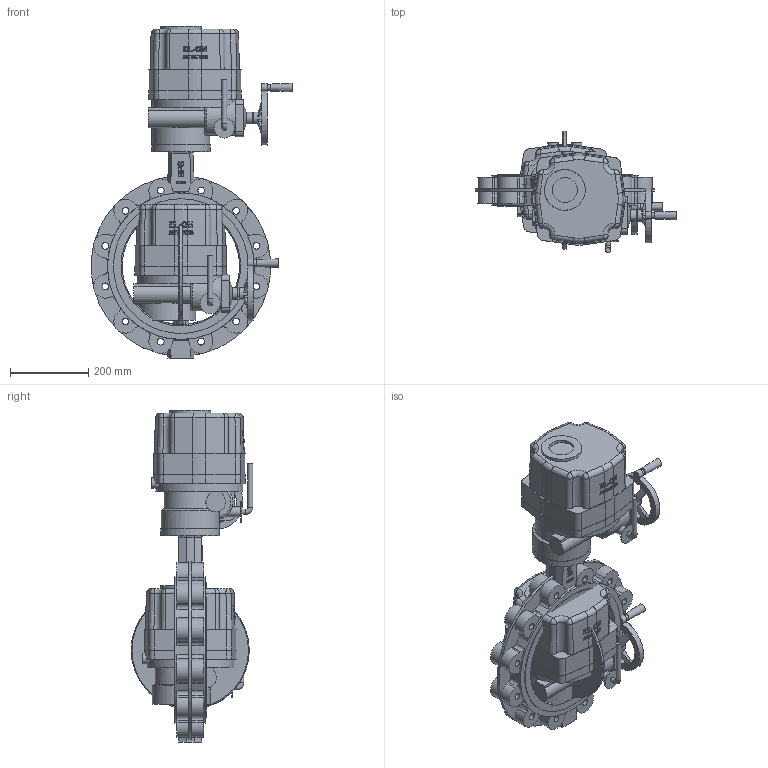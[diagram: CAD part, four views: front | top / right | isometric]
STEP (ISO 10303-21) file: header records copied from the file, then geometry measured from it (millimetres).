
FILE_DESCRIPTION( ( 'Unknown' ), '1' );
FILE_NAME( 'R:/ECCUA/ROOTSI BPS 3D vidinad/Poordklapid Lug type/Butterfly valve(lug) with electric actuator BPS/STEP formaat/BPS 2313300E(R) butterfly valve DN300.stp', 'Unknown', ( 'Unknown' ), ( 'Unknown' ), 'PSStep 10.1', 'Unknown', ' ' );
FILE_SCHEMA( ( 'AUTOMOTIVE_DESIGN { 1 0 10303 214 1 1 1 1 }' ) );
Length unit declared in the file: millimetre
Products named in the file (3): Assem1; BPS 8005300-500 electric actuator DN200-350; Butterfly valve lug type DN300 PN10 BPS
Bounding box: 515.12 x 311 x 849 mm (x, y, z)
Volume: 36650520.6 mm3; surface area: 2252725.1 mm2
Topology: 4 solids, 4 shells, 1288 faces, 3402 edges, 2198 vertices
Faces by surface type: plane 562, cylinder 374, bspline 126, cone 96, extrusion 84, torus 30, sphere 16
Full cylindrical faces by diameter (mm): 8.376 x16, 10.106 x16, 13 x12, 15 x2, 17.294 x24, 18 x2, 25 x2, 27 x4, 30 x4, 35 x2, 52 x2, 64 x2, 104 x2, 106 x2, 134 x2, 148 x2, 150 x2, 300 x2, 345 x4, 375 x4
Entity records: 35131 total; most frequent: CARTESIAN_POINT 15109, ORIENTED_EDGE 3148, DIRECTION 2796, EDGE_CURVE 1574, AXIS2_PLACEMENT_3D 1076, VERTEX_POINT 1064, EDGE_LOOP 812, FACE_OUTER_BOUND 706
